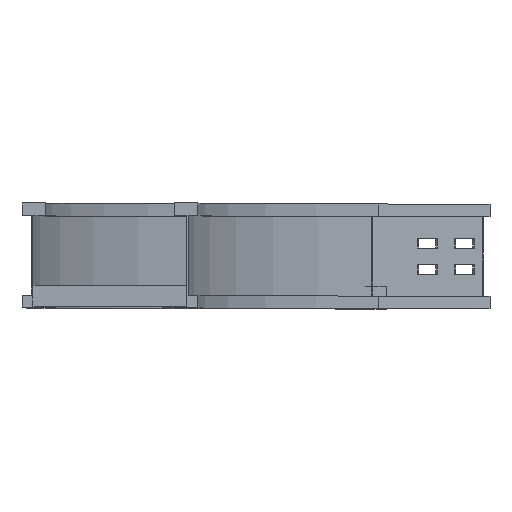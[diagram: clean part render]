
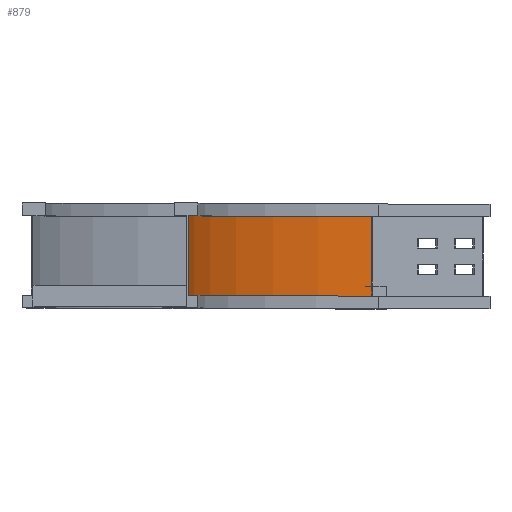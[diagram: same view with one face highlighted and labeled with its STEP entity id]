
A CAD part, top view. The second image highlights one B-rep face of the part: STEP entity #879.
In plain terms, the highlighted cylindrical face has radius 600 mm (diameter 1200 mm), a partial arc.
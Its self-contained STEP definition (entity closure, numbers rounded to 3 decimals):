
#162 = DIRECTION ( 'NONE',  ( -1., 0., 0. ) ) ;
#169 = DIRECTION ( 'NONE',  ( 0., 0., -1. ) ) ;
#378 = AXIS2_PLACEMENT_3D ( 'NONE', #3294, #1541, #169 ) ;
#626 = DIRECTION ( 'NONE',  ( -1., 0., 0. ) ) ;
#635 = EDGE_CURVE ( 'NONE', #2135, #3761, #2412, .T. ) ;
#652 = LINE ( 'NONE', #673, #1660 ) ;
#673 = CARTESIAN_POINT ( 'NONE',  ( 166.736, 12., -574.264 ) ) ;
#879 = ADVANCED_FACE ( 'NONE', ( #1562 ), #1628, .F. ) ;
#976 = CARTESIAN_POINT ( 'NONE',  ( 591., 88., -150. ) ) ;
#1073 = VECTOR ( 'NONE', #4387, 1000. ) ;
#1230 = AXIS2_PLACEMENT_3D ( 'NONE', #2159, #3963, #162 ) ;
#1440 = CARTESIAN_POINT ( 'NONE',  ( 166.736, 88., -574.264 ) ) ;
#1522 = ORIENTED_EDGE ( 'NONE', *, *, #2976, .F. ) ;
#1541 = DIRECTION ( 'NONE',  ( 0., -1., 0. ) ) ;
#1562 = FACE_OUTER_BOUND ( 'NONE', #3995, .T. ) ;
#1628 = CYLINDRICAL_SURFACE ( 'NONE', #378, 600. ) ;
#1660 = VECTOR ( 'NONE', #3463, 1000. ) ;
#1786 = ORIENTED_EDGE ( 'NONE', *, *, #1810, .T. ) ;
#1810 = EDGE_CURVE ( 'NONE', #3632, #3761, #652, .T. ) ;
#1929 = CARTESIAN_POINT ( 'NONE',  ( 166.736, 12., -574.264 ) ) ;
#2135 = VERTEX_POINT ( 'NONE', #2349 ) ;
#2159 = CARTESIAN_POINT ( 'NONE',  ( 591., 12., -150. ) ) ;
#2328 = CARTESIAN_POINT ( 'NONE',  ( -9., 12., -150. ) ) ;
#2349 = CARTESIAN_POINT ( 'NONE',  ( -9., 88., -150. ) ) ;
#2367 = DIRECTION ( 'NONE',  ( 0., -1., 0. ) ) ;
#2412 = CIRCLE ( 'NONE', #3569, 600. ) ;
#2634 = ORIENTED_EDGE ( 'NONE', *, *, #635, .F. ) ;
#2976 = EDGE_CURVE ( 'NONE', #4065, #2135, #3010, .T. ) ;
#3010 = LINE ( 'NONE', #3330, #1073 ) ;
#3294 = CARTESIAN_POINT ( 'NONE',  ( 591., 0., -150. ) ) ;
#3330 = CARTESIAN_POINT ( 'NONE',  ( -9., 12., -150. ) ) ;
#3463 = DIRECTION ( 'NONE',  ( 0., 1., 0. ) ) ;
#3479 = ORIENTED_EDGE ( 'NONE', *, *, #3483, .T. ) ;
#3483 = EDGE_CURVE ( 'NONE', #4065, #3632, #4051, .T. ) ;
#3569 = AXIS2_PLACEMENT_3D ( 'NONE', #976, #2367, #626 ) ;
#3632 = VERTEX_POINT ( 'NONE', #1929 ) ;
#3761 = VERTEX_POINT ( 'NONE', #1440 ) ;
#3963 = DIRECTION ( 'NONE',  ( 0., -1., 0. ) ) ;
#3995 = EDGE_LOOP ( 'NONE', ( #2634, #1522, #3479, #1786 ) ) ;
#4051 = CIRCLE ( 'NONE', #1230, 600. ) ;
#4065 = VERTEX_POINT ( 'NONE', #2328 ) ;
#4387 = DIRECTION ( 'NONE',  ( 0., 1., 0. ) ) ;
